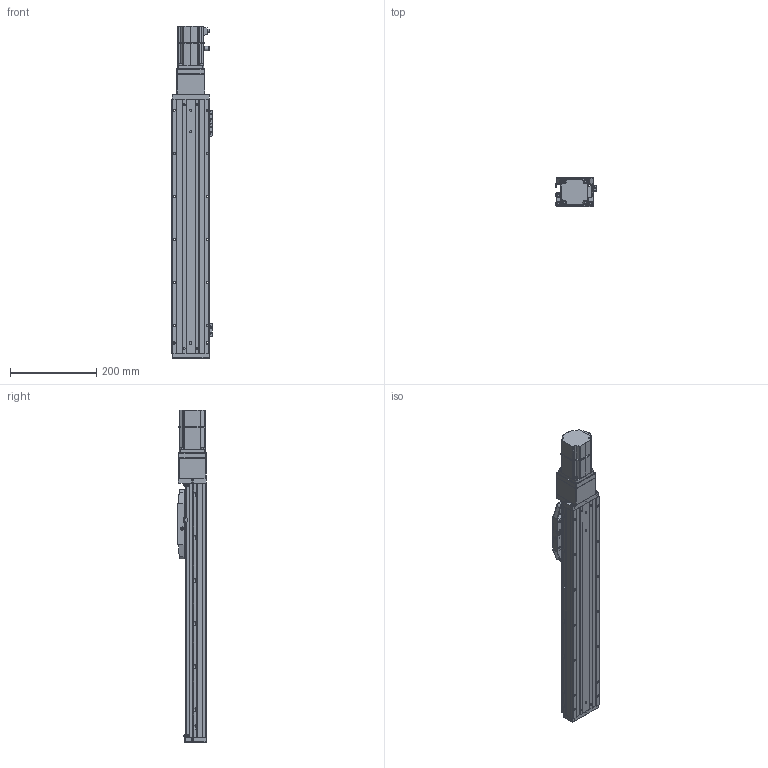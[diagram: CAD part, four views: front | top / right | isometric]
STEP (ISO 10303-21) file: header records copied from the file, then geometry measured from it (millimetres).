
FILE_DESCRIPTION (( 'STEP AP203' ), '1' );
FILE_NAME ('CTHA86-400-BC-M20-C4L.step', '2022-04-26T00:46:52', ( '微软用户' ), ( '微软中国' ), 'SwSTEP 2.0', 'SolidWorks 2020', '' );
FILE_SCHEMA (( 'CONFIG_CONTROL_DESIGN' ));
Length unit declared in the file: millimetre
Products named in the file (22): CTHA86-400-BC-M20-C4L; KTHA86-004; GBT 70.1-M3×20; CTHA86-006-1_CTHA86-006-2; KTHA86-005; GBT70.1 M5℅16; _X2_4E0983F1_X0_200W_1; GB¨uT 70.2-M3¡Á5_M3¡Á6; GBT 70.1-M3×16; GBT 70.3-M3℅6; EE_SX911P_R; GBT 70.1-M3℅6; CTHA86-002; CTHA60-017; CTHA60-016; CTHA86-031; CTHA60-021; CTHA86-013; CTHA86-030; KTHA86-001_590; GBT77-2000 M3×3; CTHA86-027
Assembly tree (65 placements, depth 2):
  CTHA86-400-BC-M20-C4L
    KTHA86-001_590
    KTHA86-004
    KTHA86-005
    GB¨uT 70.2-M3¡Á5_M3¡Á6  x10
    EE_SX911P_R  x3
    CTHA60-017  x3
    CTHA60-021  x2
    GBT77-2000 M3×3  x6
    GBT 70.1-M3×20
    GBT70.1 M5℅16  x14
    GBT 70.1-M3×16
    GBT 70.1-M3℅6  x6
    CTHA60-016  x2
    CTHA86-013
    CTHA86-027
    CTHA86-006-1_CTHA86-006-2
    _X2_4E0983F1_X0_200W_1
    GBT 70.3-M3℅6  x6
    CTHA86-002
    CTHA86-031
    CTHA86-030  x2
Bounding box: 93.82 x 68 x 770.5 mm (x, y, z)
Volume: 2646899 mm3; surface area: 483300.9 mm2
Topology: 67 solids, 67 shells, 2694 faces, 6415 edges, 3940 vertices
Faces by surface type: plane 1404, cylinder 691, cone 386, torus 120, bspline 69, sphere 24
Entity records: 46983 total; most frequent: CARTESIAN_POINT 8736, DIRECTION 7378, ORIENTED_EDGE 7086, EDGE_CURVE 3543, AXIS2_PLACEMENT_3D 2518, LINE 2342, VECTOR 2342, VERTEX_POINT 2218
